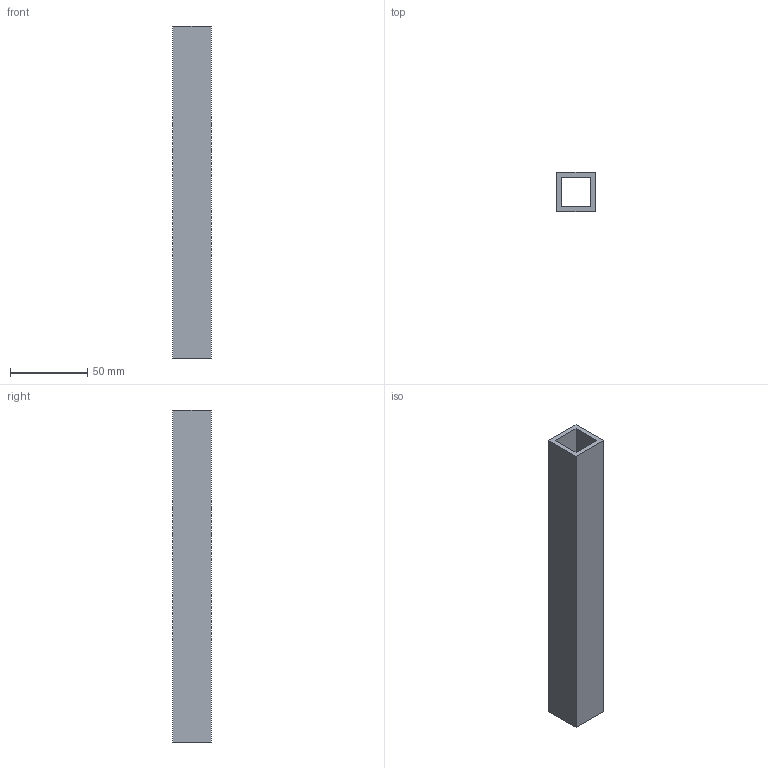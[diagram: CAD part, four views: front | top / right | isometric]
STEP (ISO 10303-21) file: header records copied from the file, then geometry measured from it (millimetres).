
FILE_DESCRIPTION(('Open CASCADE Model'),'2;1');
FILE_NAME('Open CASCADE Shape Model','2026-10-04T01:02:29',('Author'),( 'Open CASCADE'),'Open CASCADE STEP processor 8.0','Open CASCADE 8.0' ,'Unknown');
FILE_SCHEMA(('AUTOMOTIVE_DESIGN { 1 0 10303 214 1 1 1 1 }'));
Length unit declared in the file: millimetre
Products named in the file (1): Open CASCADE STEP translator 8.0 176
Bounding box: 25 x 25 x 215 mm (x, y, z)
Volume: 56760 mm3; surface area: 38368 mm2
Topology: 1 solids, 1 shells, 10 faces, 24 edges, 16 vertices
Faces by surface type: plane 10
Entity records: 598 total; most frequent: CARTESIAN_POINT 115, DIRECTION 78, LINE 56, VECTOR 56, ORIENTED_EDGE 48, PCURVE 48, DEFINITIONAL_REPRESENTATION 48, EDGE_CURVE 24
